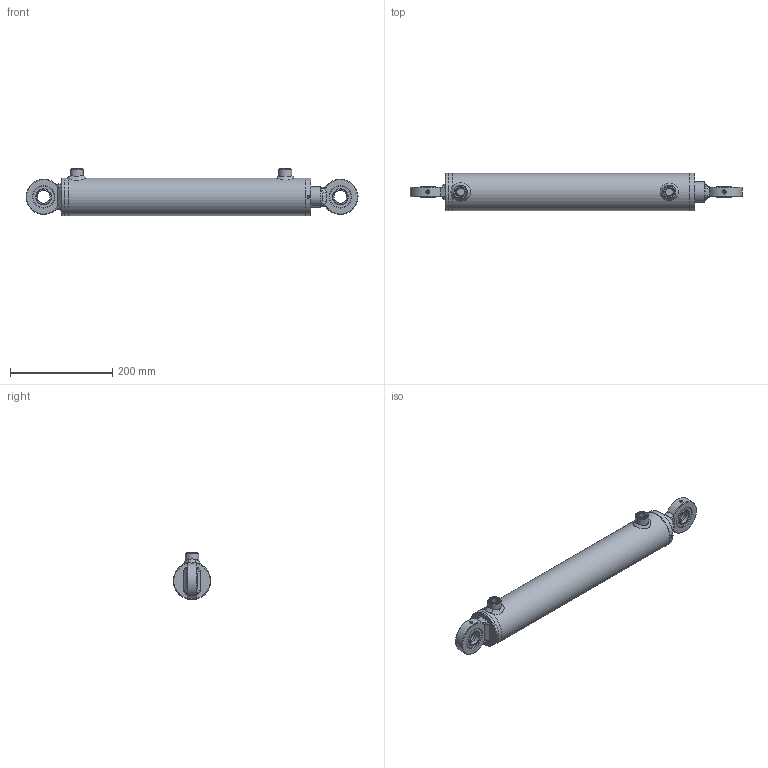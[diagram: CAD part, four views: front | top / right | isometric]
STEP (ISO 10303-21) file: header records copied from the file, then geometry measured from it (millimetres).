
FILE_DESCRIPTION( ( 'Unknown' ), '1' );
FILE_NAME( 'E:/LIBRERIA_3d/CILINDRI/HMC/HMC063400350.stp', 'Unknown', ( 'Unknown' ), ( 'Unknown' ), 'PSStep 17.0.49', 'Unknown', ' ' );
FILE_SCHEMA( ( 'AUTOMOTIVE_DESIGN { 1 0 10303 214 1 1 1 1 }' ) );
Length unit declared in the file: millimetre
Products named in the file (27): CG07306340; STL0630730350-oa6; Saldatura d'angolo 1-oa4; MAT_PRIMA_TUBO_FT07306300-oa5; CBSC220600; CT00063024; CAGEG06904225; CAGE069042; cge0250000; HM0063400350; Saldatura con preparazione 1-oa2; Saldatura d'angolo 1-oa3; CBS0600000; CF00063073; CDA0002420; APG0600000; SBL0400630350; Assem1; Saldatura d'angolo 1-oa0; Saldatura d'angolo 2-oa1
Assembly tree (20 placements, depth 4):
  Saldatura d'angolo 1-oa4
  Saldatura d'angolo 1-oa4
  Saldatura d'angolo 1-oa3
  Saldatura d'angolo 1-oa3
  Assem1
    CAGEG06904225  x2
      CAGE069042
      cge0250000
    HM0063400350
      Saldatura con preparazione 1-oa2
      Saldatura con preparazione 1-oa2
      CBS0600000
      CF00063073
      CDA0002420
      APG0600000  x2
      SBL0400630350
      CG07306340
        CG07306340
      CT00063024
        CT00063024
      STL0630730350-oa6
        MAT_PRIMA_TUBO_FT07306300-oa5
        CBSC220600
Bounding box: 648 x 73 x 92 mm (x, y, z)
Volume: 1474726.7 mm3; surface area: 396015.4 mm2
Topology: 24 solids, 24 shells, 414 faces, 924 edges, 503 vertices
Faces by surface type: bspline 164, plane 82, cylinder 79, cone 47, torus 38, sphere 4
Full cylindrical faces by diameter (mm): 2 x4, 4.25 x1, 5 x4, 6 x2, 7 x2, 14.95 x2, 16 x2, 16.6 x2, 22 x2, 23.4 x1, 24 x5, 25 x4, 26 x2, 28.5 x1, 36 x1, 40 x6, 42 x7, 43 x1, 47 x1, 48 x1, 48.6 x1, 58 x1, 58.39 x2, 61.63 x2, 62.9 x1, 63 x1, 63.8 x1, 64 x1, 64.1 x1, 65 x4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
Entity records: 17321 total; most frequent: CARTESIAN_POINT 8336, ORIENTED_EDGE 1126, DIRECTION 900, EDGE_LOOP 570, EDGE_CURVE 563, FACE_OUTER_BOUND 478, AXIS2_PLACEMENT_3D 436, VERTEX_POINT 394
